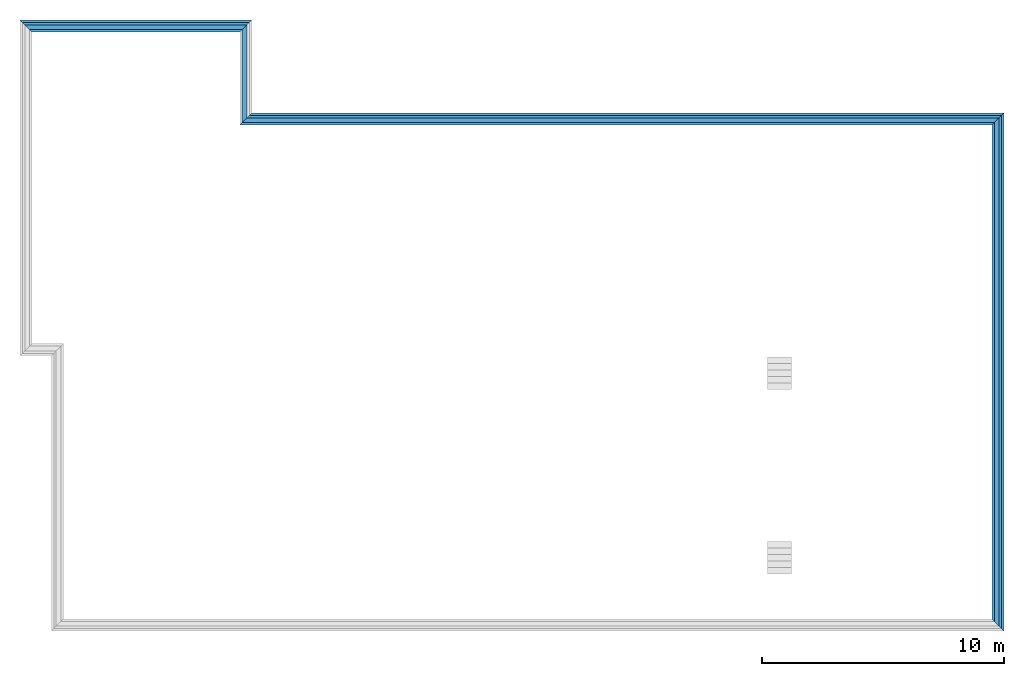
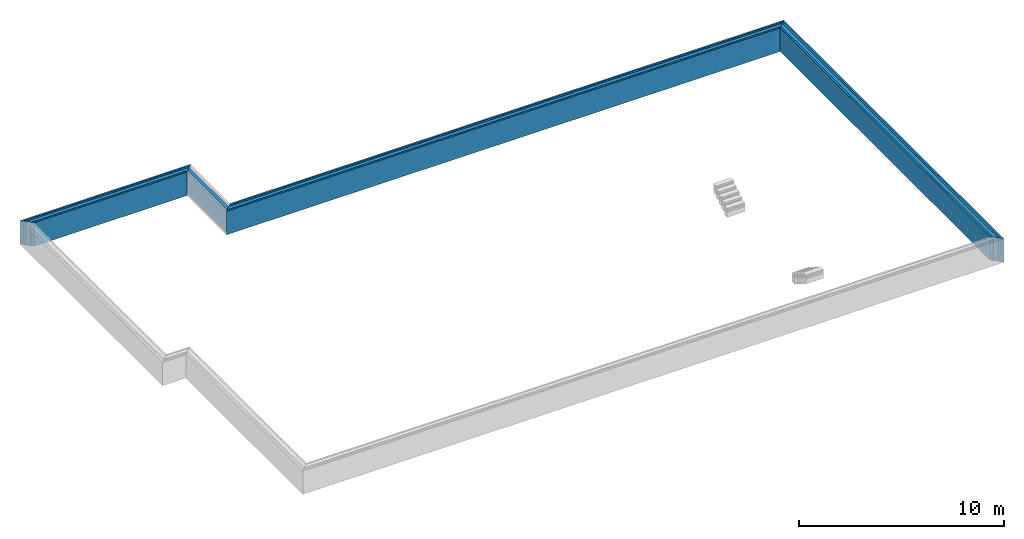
# One storey, part 2 of 2: 13 building element parts, 4 elements without a shape of their own.
"""IFC2X3 building model written with IfcOpenShell, lengths in millimetres."""

from ifc_helpers import new_model, entity, si_unit, converted_unit, derived_unit, money_unit, direction, frame, origin_with_axes, place, context, subcontext, project, spatial, polyline, outline, extrude, material, type_object, element, aggregate, save


model = new_model("IFC2X3")

# Units and contexts
model_context = context("Model", 3, precision=0.01, world=origin_with_axes(), true_north=direction((0.0, 1.0)))
body_context = subcontext(model_context, "Body", "Model", "MODEL_VIEW")
ifc_project = project(units=[si_unit("LENGTHUNIT", "METRE", prefix="MILLI"), si_unit("AREAUNIT", "SQUARE_METRE"), si_unit("VOLUMEUNIT", "CUBIC_METRE"), converted_unit("PLANEANGLEUNIT", "DEGREE", entity("IfcPlaneAngleMeasure", 0.0174532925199), si_unit("PLANEANGLEUNIT", "RADIAN"), dimensions=[0, 0, 0, 0, 0, 0, 0]), si_unit("SOLIDANGLEUNIT", "STERADIAN"), money_unit("EUR"), converted_unit("TIMEUNIT", "Year", entity("IfcTimeMeasure", 31556926.0), si_unit("TIMEUNIT", "SECOND"), dimensions=[0, 0, 1, 0, 0, 0, 0]), si_unit("MASSUNIT", "GRAM", prefix="KILO"), si_unit("THERMODYNAMICTEMPERATUREUNIT", "DEGREE_CELSIUS"), si_unit("LUMINOUSINTENSITYUNIT", "LUMEN"), si_unit("ENERGYUNIT", "JOULE", prefix="MEGA"), derived_unit("THERMALCONDUCTANCEUNIT", [(si_unit("POWERUNIT", "WATT"), 1), (si_unit("LENGTHUNIT", "METRE"), -1), (si_unit("THERMODYNAMICTEMPERATUREUNIT", "KELVIN"), -1)]), derived_unit("SPECIFICHEATCAPACITYUNIT", [(si_unit("ENERGYUNIT", "JOULE"), 1), (si_unit("MASSUNIT", "GRAM", prefix="KILO"), -1), (si_unit("THERMODYNAMICTEMPERATUREUNIT", "KELVIN"), -1)]), derived_unit("MASSDENSITYUNIT", [(si_unit("MASSUNIT", "GRAM", prefix="KILO"), 1), (si_unit("VOLUMEUNIT", "CUBIC_METRE"), -1)])], contexts=[model_context])

# Site, building, storey
site_placement = place(None, origin_with_axes())
site = spatial("IfcSite", under=ifc_project, at=site_placement, Name="KIRDE 14, ELVA", CompositionType="ELEMENT")
building_placement = place(site_placement, origin_with_axes())
building = spatial("IfcBuilding", under=site, at=building_placement, Name="PPA ja Päästeameti ühishoone", CompositionType="ELEMENT")
storey_placement = place(building_placement, frame((0.0, 0.0, -1700.0), z_axis=(0.0, 0.0, 1.0), x_axis=(1.0, 0.0, 0.0)))
storey = spatial("IfcBuildingStorey", under=building, at=storey_placement, Name="Vundament", CompositionType="ELEMENT", Elevation=-1700.0)

# Wall, building element parts
wall_type = type_object("IfcWallType", Name="VS- SOKKEL 500", PredefinedType="NOTDEFINED")
wall_1_placement = place(storey_placement, frame((150.0, 24449.8167313, 300.0), z_axis=(0.0, 0.0, 1.0), x_axis=(1.0, 0.0, 0.0)))
wall_1 = element("IfcWall", 1, at=wall_1_placement, inside=storey, type_object=wall_type, Name="VS-SOKKEL")
ifc_material_1 = material(Name="Vahtpolüstüreen (4)")
building_element_part_1_placement = place(wall_1_placement, origin_with_axes())
building_element_part_1 = element("IfcBuildingElementPart", 2, at=building_element_part_1_placement, material=ifc_material_1, Name="Vahtpolüstüreen (4)", context=body_context, shape_type="SweptSolid", body=[
    extrude(outline(polyline([(-400.0, 400.0), (9000.00012098, 400.0), (9100.00012098, 500.0), (-500.0, 500.0), (-400.0, 400.0)])), origin_with_axes(), (0.0, 0.0, 1.0), 1400.0),
])
building_element_part_2_placement = place(wall_1_placement, origin_with_axes())
building_element_part_2 = element("IfcBuildingElementPart", 3, at=building_element_part_2_placement, material=ifc_material_1, Name="Vahtpolüstüreen (4)", context=body_context, shape_type="SweptSolid", body=[
    extrude(outline(polyline([(-300.0, 300.0), (8900.00012098, 300.0), (9000.00012098, 400.0), (-400.0, 400.0), (-300.0, 300.0)])), origin_with_axes(), (0.0, 0.0, 1.0), 1400.0),
])
ifc_material_2 = material(Name="Concrete, Cast In Situ")
building_element_part_3_placement = place(wall_1_placement, origin_with_axes())
building_element_part_3 = element("IfcBuildingElementPart", 4, at=building_element_part_3_placement, material=ifc_material_2, Name="Concrete, Cast In Situ", context=body_context, shape_type="SweptSolid", body=[
    extrude(outline(polyline([(-100.0, 100.0), (8700.00012098, 100.0), (8900.00012098, 300.0), (-300.0, 300.0), (-100.0, 100.0)])), origin_with_axes(), (0.0, 0.0, 1.0), 1400.0),
])
building_element_part_4_placement = place(wall_1_placement, origin_with_axes())
building_element_part_4 = element("IfcBuildingElementPart", 5, at=building_element_part_4_placement, material=ifc_material_1, Name="Vahtpolüstüreen (4)", context=body_context, shape_type="SweptSolid", body=[
    extrude(outline(polyline([(0.0, 0.0), (8600.00012098, 0.0), (8700.00012098, 100.0), (-100.0, 100.0), (0.0, 0.0)])), origin_with_axes(), (0.0, 0.0, 1.0), 1400.0),
])
aggregate(wall_1, [building_element_part_1, building_element_part_2, building_element_part_3, building_element_part_4])

# Wall, building element part
wall_2_placement = place(storey_placement, frame((8750.00012098, 24449.8167313, 300.0), z_axis=(0.0, 0.0, 1.0), x_axis=(0.0, -1.0, 0.0)))
wall_2 = element("IfcWall", 6, at=wall_2_placement, inside=storey, type_object=wall_type, Name="VS-SOKKEL")
building_element_part_5_placement = place(wall_2_placement, origin_with_axes())
building_element_part_5 = element("IfcBuildingElementPart", 7, at=building_element_part_5_placement, material=ifc_material_2, Name="Concrete, Cast In Situ", context=body_context, shape_type="SweptSolid", body=[
    extrude(outline(polyline([(-100.0, 100.0), (3750.22510681, 100.0), (3550.22510681, 300.0), (-300.0, 300.0), (-100.0, 100.0)])), origin_with_axes(), (0.0, 0.0, 1.0), 1400.0),
])
aggregate(wall_2, [building_element_part_5])

# Wall, building element parts
wall_3_placement = place(storey_placement, frame((8750.00012098, 20599.5916245, 300.0), z_axis=(0.0, 0.0, 1.0), x_axis=(1.0, 0.0, 0.0)))
wall_3 = element("IfcWall", 8, at=wall_3_placement, inside=storey, type_object=wall_type, Name="VS-SOKKEL")
building_element_part_6_placement = place(wall_3_placement, origin_with_axes())
building_element_part_6 = element("IfcBuildingElementPart", 9, at=building_element_part_6_placement, material=ifc_material_1, Name="Vahtpolüstüreen (4)", context=body_context, shape_type="SweptSolid", body=[
    extrude(outline(polyline([(400.0, 400.0), (31544.7047591, 400.0), (31644.7047591, 500.0), (500.0, 500.0), (400.0, 400.0)])), origin_with_axes(), (0.0, 0.0, 1.0), 1400.0),
])
building_element_part_7_placement = place(wall_3_placement, origin_with_axes())
building_element_part_7 = element("IfcBuildingElementPart", 10, at=building_element_part_7_placement, material=ifc_material_1, Name="Vahtpolüstüreen (4)", context=body_context, shape_type="SweptSolid", body=[
    extrude(outline(polyline([(300.0, 300.0), (31444.7047591, 300.0), (31544.7047591, 400.0), (400.0, 400.0), (300.0, 300.0)])), origin_with_axes(), (0.0, 0.0, 1.0), 1400.0),
])
building_element_part_8_placement = place(wall_3_placement, origin_with_axes())
building_element_part_8 = element("IfcBuildingElementPart", 11, at=building_element_part_8_placement, material=ifc_material_2, Name="Concrete, Cast In Situ", context=body_context, shape_type="SweptSolid", body=[
    extrude(outline(polyline([(100.0, 100.0), (31244.7047591, 100.0), (31444.7047591, 300.0), (300.0, 300.0), (100.0, 100.0)])), origin_with_axes(), (0.0, 0.0, 1.0), 1400.0),
])
building_element_part_9_placement = place(wall_3_placement, origin_with_axes())
building_element_part_9 = element("IfcBuildingElementPart", 12, at=building_element_part_9_placement, material=ifc_material_1, Name="Vahtpolüstüreen (4)", context=body_context, shape_type="SweptSolid", body=[
    extrude(outline(polyline([(0.0, 0.0), (31144.7047591, 0.0), (31244.7047591, 100.0), (100.0, 100.0), (0.0, 0.0)])), origin_with_axes(), (0.0, 0.0, 1.0), 1400.0),
])
aggregate(wall_3, [building_element_part_6, building_element_part_7, building_element_part_8, building_element_part_9])

wall_4_placement = place(storey_placement, frame((39894.7048801, 20599.5916245, 300.0), z_axis=(0.0, 0.0, 1.0), x_axis=(0.0, -1.0, 0.0)))
wall_4 = element("IfcWall", 13, at=wall_4_placement, inside=storey, type_object=wall_type, Name="VS-SOKKEL")
building_element_part_10_placement = place(wall_4_placement, origin_with_axes())
building_element_part_10 = element("IfcBuildingElementPart", 14, at=building_element_part_10_placement, material=ifc_material_1, Name="Vahtpolüstüreen (4)", context=body_context, shape_type="SweptSolid", body=[
    extrude(outline(polyline([(-400.0, 400.0), (20849.5916245, 400.0), (20949.5916245, 500.0), (-500.0, 500.0), (-400.0, 400.0)])), origin_with_axes(), (0.0, 0.0, 1.0), 1400.0),
])
building_element_part_11_placement = place(wall_4_placement, origin_with_axes())
building_element_part_11 = element("IfcBuildingElementPart", 15, at=building_element_part_11_placement, material=ifc_material_1, Name="Vahtpolüstüreen (4)", context=body_context, shape_type="SweptSolid", body=[
    extrude(outline(polyline([(-300.0, 300.0), (20749.5916245, 300.0), (20849.5916245, 400.0), (-400.0, 400.0), (-300.0, 300.0)])), origin_with_axes(), (0.0, 0.0, 1.0), 1400.0),
])
building_element_part_12_placement = place(wall_4_placement, origin_with_axes())
building_element_part_12 = element("IfcBuildingElementPart", 16, at=building_element_part_12_placement, material=ifc_material_2, Name="Concrete, Cast In Situ", context=body_context, shape_type="SweptSolid", body=[
    extrude(outline(polyline([(-100.0, 100.0), (20549.5916245, 100.0), (20749.5916245, 300.0), (-300.0, 300.0), (-100.0, 100.0)])), origin_with_axes(), (0.0, 0.0, 1.0), 1400.0),
])
building_element_part_13_placement = place(wall_4_placement, origin_with_axes())
building_element_part_13 = element("IfcBuildingElementPart", 17, at=building_element_part_13_placement, material=ifc_material_1, Name="Vahtpolüstüreen (4)", context=body_context, shape_type="SweptSolid", body=[
    extrude(outline(polyline([(0.0, 0.0), (20449.5916245, 0.0), (20549.5916245, 100.0), (-100.0, 100.0), (0.0, 0.0)])), origin_with_axes(), (0.0, 0.0, 1.0), 1400.0),
])
aggregate(wall_4, [building_element_part_10, building_element_part_11, building_element_part_12, building_element_part_13])

save(model, "model.ifc")
